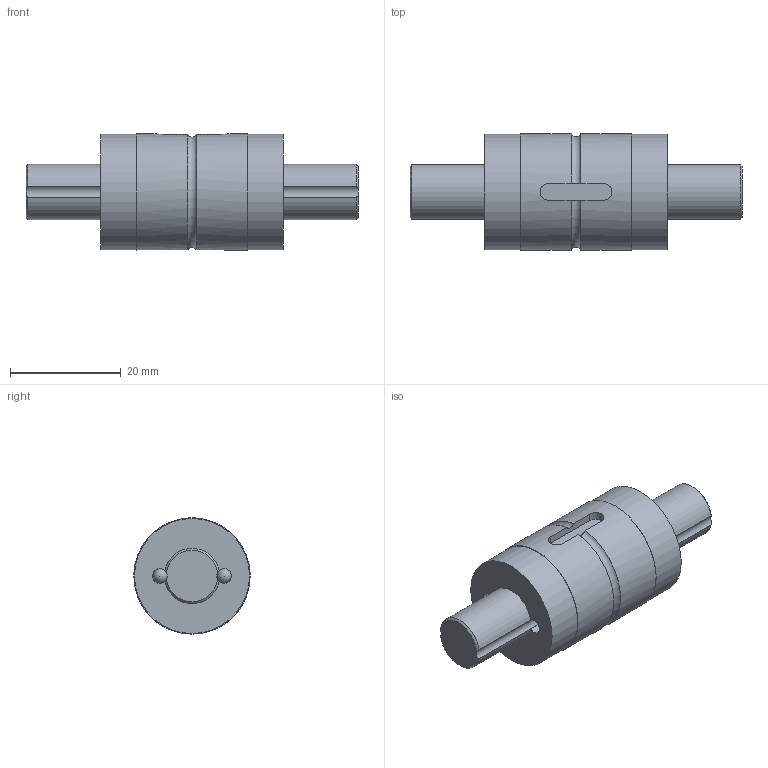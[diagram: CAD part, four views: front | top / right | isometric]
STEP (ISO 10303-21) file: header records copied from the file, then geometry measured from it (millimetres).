
FILE_DESCRIPTION(/* description */ ('Unknown'),/* implementation_level */ '2;1');
FILE_NAME(/* name */ 'TLT010-D-L60',/* time_stamp */ '2024-12-23T10:11:07+08:00',/* author */ ('Unknown'),/* organization */ ('Unknown'),/* preprocessor_version */ 'ST-DEVELOPER v18.102',/* originating_system */ 'Solid Edge',/* authorisation */ 'Unknown');
FILE_SCHEMA (('AUTOMOTIVE_DESIGN {1 0 10303 214 3 1 1}'));
Length unit declared in the file: millimetre
Products named in the file (3): TLT010-D-L60; TLT010-D-xxxx; TLT010
Assembly tree (2 placements, depth 2):
  TLT010-D-L60
    TLT010-D-xxxx
    TLT010
Bounding box: 60 x 21 x 21 mm (x, y, z)
Volume: 13052.1 mm3; surface area: 6349.1 mm2
Topology: 2 solids, 2 shells, 39 faces, 156 edges, 103 vertices
Faces by surface type: cylinder 15, sphere 10, plane 9, cone 4, torus 1
Full cylindrical faces by diameter (mm): 1.5 x1, 20.8 x2, 21 x2
Entity records: 1945 total; most frequent: CARTESIAN_POINT 712, ORIENTED_EDGE 260, DIRECTION 198, EDGE_CURVE 130, VERTEX_POINT 92, AXIS2_PLACEMENT_3D 80, EDGE_LOOP 76, FACE_BOUND 76
